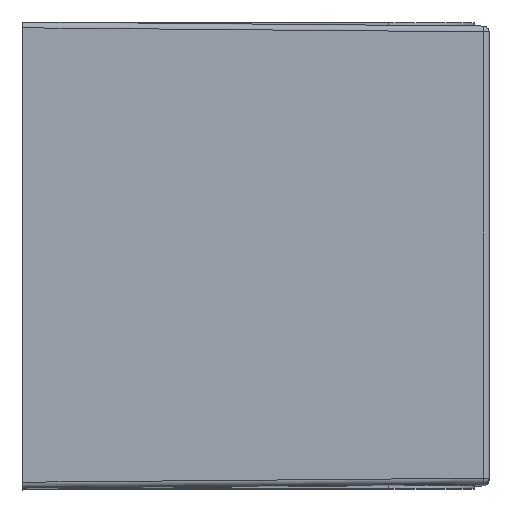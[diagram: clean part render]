
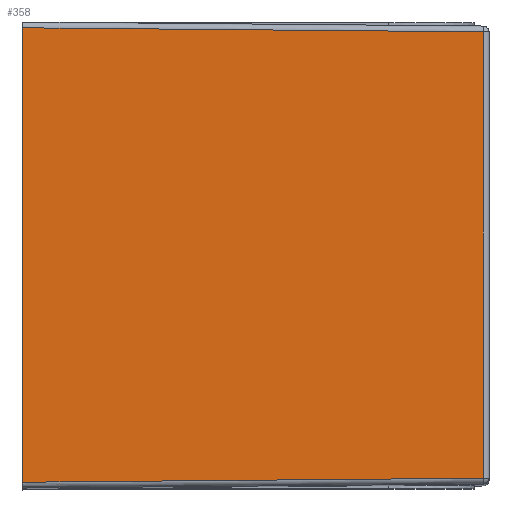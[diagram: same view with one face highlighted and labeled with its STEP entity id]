
A CAD part, top view. The second image highlights one B-rep face of the part: STEP entity #358.
In plain terms, the highlighted planar face has unit normal (0.009, 0, 1).
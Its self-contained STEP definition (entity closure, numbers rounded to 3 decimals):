
#358 = ADVANCED_FACE( '', ( #765 ), #766, .T. );
#765 = FACE_OUTER_BOUND( '', #1317, .T. );
#766 = PLANE( '', #1318 );
#1317 = EDGE_LOOP( '', ( #2346, #2347, #2348, #2349 ) );
#1318 = AXIS2_PLACEMENT_3D( '', #2350, #2351, #2352 );
#2346 = ORIENTED_EDGE( '', *, *, #3190, .T. );
#2347 = ORIENTED_EDGE( '', *, *, #3223, .T. );
#2348 = ORIENTED_EDGE( '', *, *, #3288, .F. );
#2349 = ORIENTED_EDGE( '', *, *, #3212, .T. );
#2350 = CARTESIAN_POINT( '', ( -8., 0., 5. ) );
#2351 = DIRECTION( '', ( 0.009, 0., 1. ) );
#2352 = DIRECTION( '', ( 1., 0., -0.009 ) );
#3190 = EDGE_CURVE( '', #3538, #3738, #3910, .T. );
#3212 = EDGE_CURVE( '', #3937, #3538, #3939, .F. );
#3223 = EDGE_CURVE( '', #3738, #3953, #3956, .T. );
#3288 = EDGE_CURVE( '', #3937, #3953, #4047, .T. );
#3538 = VERTEX_POINT( '', #4396 );
#3738 = VERTEX_POINT( '', #4701 );
#3910 = LINE( '', #4919, #4920 );
#3937 = VERTEX_POINT( '', #4957 );
#3939 = LINE( '', #4959, #4960 );
#3953 = VERTEX_POINT( '', #4980 );
#3956 = LINE( '', #4983, #4984 );
#4047 = LINE( '', #5118, #5119 );
#4396 = CARTESIAN_POINT( '', ( -0.099, -3.831, 4.931 ) );
#4701 = CARTESIAN_POINT( '', ( -0.099, 3.831, 4.931 ) );
#4919 = CARTESIAN_POINT( '', ( -0.099, 3.93, 4.931 ) );
#4920 = VECTOR( '', #5743, 1000. );
#4957 = CARTESIAN_POINT( '', ( -8., -3.9, 5. ) );
#4959 = CARTESIAN_POINT( '', ( -7.966, -3.9, 5. ) );
#4960 = VECTOR( '', #5766, 1000. );
#4980 = CARTESIAN_POINT( '', ( -8., 3.9, 5. ) );
#4983 = CARTESIAN_POINT( '', ( -7.966, 3.9, 5. ) );
#4984 = VECTOR( '', #5776, 1000. );
#5118 = CARTESIAN_POINT( '', ( -8., 0., 5. ) );
#5119 = VECTOR( '', #5845, 1000. );
#5743 = DIRECTION( '', ( 0., 1., 0. ) );
#5766 = DIRECTION( '', ( -1., -0.009, 0.009 ) );
#5776 = DIRECTION( '', ( -1., 0.009, 0.009 ) );
#5845 = DIRECTION( '', ( 0., 1., 0. ) );
